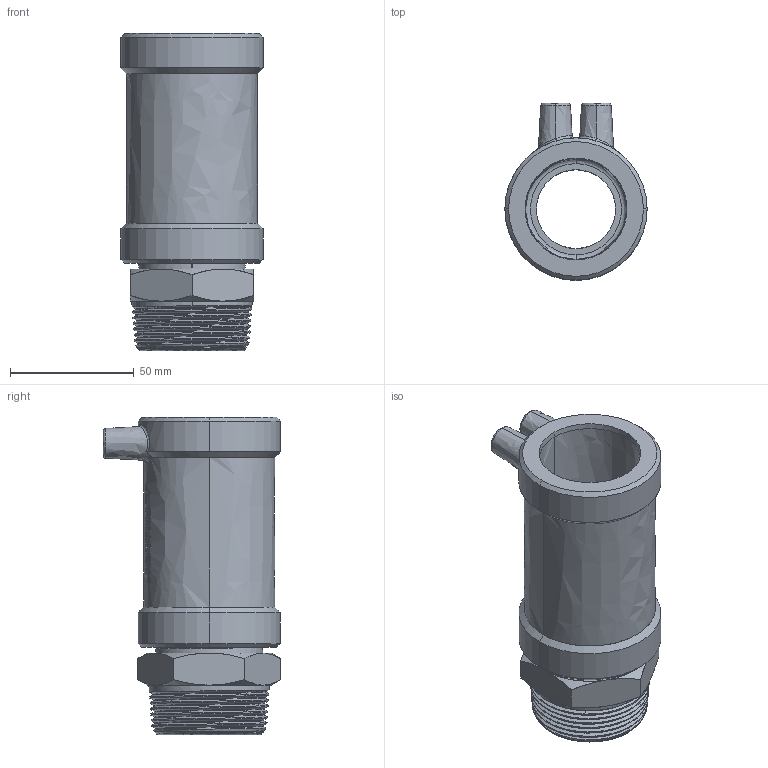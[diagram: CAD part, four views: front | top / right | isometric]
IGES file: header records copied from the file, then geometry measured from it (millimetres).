
Start section:  PTC IGES file: mun_d40_1_1-2_01.igs
Global section: file name: mun_d40_1_1-2_01.igs; native system: Pro/ENGINEER by Parametric Technology Corporation; preprocessor: 2011490; author: mtunjic; organization: Unknown; date: 20130823.152112; units: millimetre
Bounding box: 57.5 x 71.67 x 128.3 mm (x, y, z)
Surface area: 45566.1 mm2 (no closed solid volume)
Topology: 0 solids, 0 shells, 246 faces, 1248 edges, 1248 vertices
Faces by surface type: bspline 246
